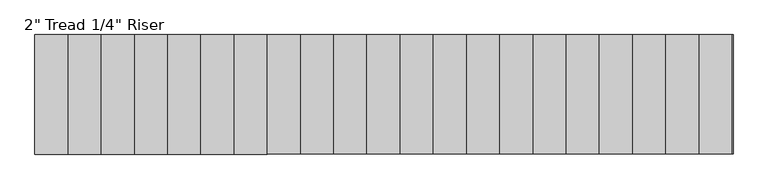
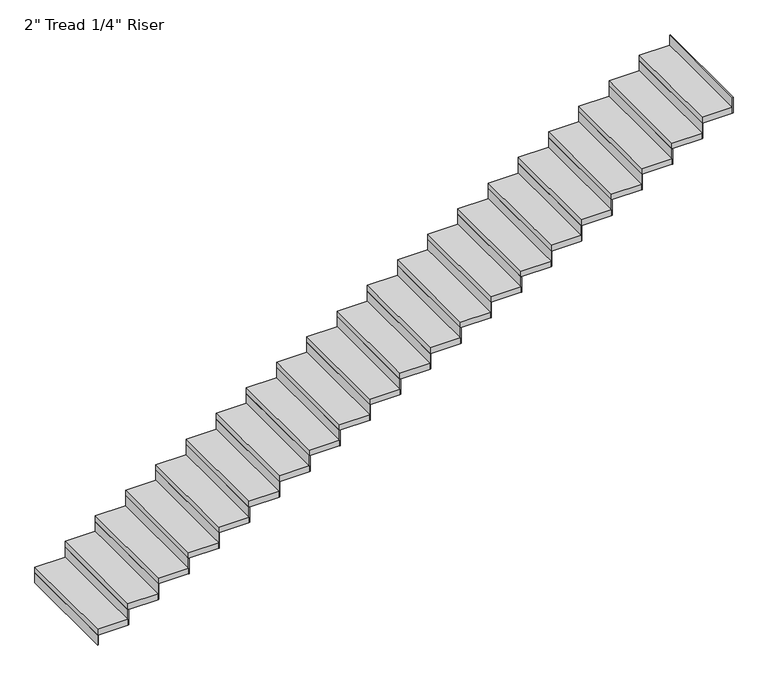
"""IFC4 building model written with IfcOpenShell, lengths in millimetres: stair flight geometry."""

from ifc_helpers import new_model, si_unit, frame, origin, origin_with_axes, place, context, project, spatial, polyline, outline, extrude, source, transform, mapped, element, save


def stair_flight_2ec5e118(model_context):
    return source(origin(), model_context, "Body", "SweptSolid", [
        extrude(outline(polyline([(10185.0667764, -35593.481782), (10178.7167764, -35593.481782), (10178.7167764, -34679.081782), (10185.0667764, -34679.081782), (10185.0667764, -35593.481782)])), origin_with_axes(), (0.0, 0.0, 1.0), 87.7454545),
        extrude(outline(polyline([(10432.7167764, -34679.081782), (10432.7167764, -35593.481782), (10178.7167764, -35593.481782), (10178.7167764, -34679.081782), (10432.7167764, -34679.081782)])), frame((0.0, 0.0, 87.7454545), z_axis=(0.0, 0.0, 1.0), x_axis=(1.0, 0.0, 0.0)), (0.0, 0.0, 1.0), 50.8),
        extrude(outline(polyline([(10439.0667764, -35593.481782), (10432.7167764, -35593.481782), (10432.7167764, -34679.081782), (10439.0667764, -34679.081782), (10439.0667764, -35593.481782)])), frame((0.0, 0.0, 87.7454545), z_axis=(0.0, 0.0, 1.0), x_axis=(1.0, 0.0, 0.0)), (0.0, 0.0, 1.0), 138.5454545),
        extrude(outline(polyline([(10686.7167764, -34679.081782), (10686.7167764, -35593.481782), (10432.7167764, -35593.481782), (10432.7167764, -34679.081782), (10686.7167764, -34679.081782)])), frame((0.0, 0.0, 226.2909091), z_axis=(0.0, 0.0, 1.0), x_axis=(1.0, 0.0, 0.0)), (0.0, 0.0, 1.0), 50.8),
        extrude(outline(polyline([(10693.0667764, -35593.481782), (10686.7167764, -35593.481782), (10686.7167764, -34679.081782), (10693.0667764, -34679.081782), (10693.0667764, -35593.481782)])), frame((0.0, 0.0, 226.2909091), z_axis=(0.0, 0.0, 1.0), x_axis=(1.0, 0.0, 0.0)), (0.0, 0.0, 1.0), 138.5454545),
        extrude(outline(polyline([(10940.7167764, -34679.081782), (10940.7167764, -35593.481782), (10686.7167764, -35593.481782), (10686.7167764, -34679.081782), (10940.7167764, -34679.081782)])), frame((0.0, 0.0, 364.8363636), z_axis=(0.0, 0.0, 1.0), x_axis=(1.0, 0.0, 0.0)), (0.0, 0.0, 1.0), 50.8),
        extrude(outline(polyline([(10947.0667764, -35593.481782), (10940.7167764, -35593.481782), (10940.7167764, -34679.081782), (10947.0667764, -34679.081782), (10947.0667764, -35593.481782)])), frame((0.0, 0.0, 364.8363636), z_axis=(0.0, 0.0, 1.0), x_axis=(1.0, 0.0, 0.0)), (0.0, 0.0, 1.0), 138.5454545),
        extrude(outline(polyline([(11194.7167764, -34679.081782), (11194.7167764, -35593.481782), (10940.7167764, -35593.481782), (10940.7167764, -34679.081782), (11194.7167764, -34679.081782)])), frame((0.0, 0.0, 503.3818182), z_axis=(0.0, 0.0, 1.0), x_axis=(1.0, 0.0, 0.0)), (0.0, 0.0, 1.0), 50.8),
        extrude(outline(polyline([(11201.0667764, -35593.481782), (11194.7167764, -35593.481782), (11194.7167764, -34679.081782), (11201.0667764, -34679.081782), (11201.0667764, -35593.481782)])), frame((0.0, 0.0, 503.3818182), z_axis=(0.0, 0.0, 1.0), x_axis=(1.0, 0.0, 0.0)), (0.0, 0.0, 1.0), 138.5454545),
        extrude(outline(polyline([(11448.7167764, -34679.081782), (11448.7167764, -35593.481782), (11194.7167764, -35593.481782), (11194.7167764, -34679.081782), (11448.7167764, -34679.081782)])), frame((0.0, 0.0, 641.9272727), z_axis=(0.0, 0.0, 1.0), x_axis=(1.0, 0.0, 0.0)), (0.0, 0.0, 1.0), 50.8),
        extrude(outline(polyline([(11455.0667764, -35593.481782), (11448.7167764, -35593.481782), (11448.7167764, -34679.081782), (11455.0667764, -34679.081782), (11455.0667764, -35593.481782)])), frame((0.0, 0.0, 641.9272727), z_axis=(0.0, 0.0, 1.0), x_axis=(1.0, 0.0, 0.0)), (0.0, 0.0, 1.0), 138.5454545),
        extrude(outline(polyline([(11702.7167764, -34679.081782), (11702.7167764, -35593.481782), (11448.7167764, -35593.481782), (11448.7167764, -34679.081782), (11702.7167764, -34679.081782)])), frame((0.0, 0.0, 780.4727273), z_axis=(0.0, 0.0, 1.0), x_axis=(1.0, 0.0, 0.0)), (0.0, 0.0, 1.0), 50.8),
        extrude(outline(polyline([(11709.0667764, -35593.481782), (11702.7167764, -35593.481782), (11702.7167764, -34679.081782), (11709.0667764, -34679.081782), (11709.0667764, -35593.481782)])), frame((0.0, 0.0, 780.4727273), z_axis=(0.0, 0.0, 1.0), x_axis=(1.0, 0.0, 0.0)), (0.0, 0.0, 1.0), 138.5454545),
        extrude(outline(polyline([(11956.7167764, -34679.081782), (11956.7167764, -35593.481782), (11702.7167764, -35593.481782), (11702.7167764, -34679.081782), (11956.7167764, -34679.081782)])), frame((0.0, 0.0, 919.0181818), z_axis=(0.0, 0.0, 1.0), x_axis=(1.0, 0.0, 0.0)), (0.0, 0.0, 1.0), 50.8),
        extrude(outline(polyline([(11963.0667764, -35593.481782), (11956.7167764, -35593.481782), (11956.7167764, -34679.081782), (11963.0667764, -34679.081782), (11963.0667764, -35593.481782)])), frame((0.0, 0.0, 919.0181818), z_axis=(0.0, 0.0, 1.0), x_axis=(1.0, 0.0, 0.0)), (0.0, 0.0, 1.0), 138.5454545),
        extrude(outline(polyline([(12210.7167764, -34679.081782), (12210.7167764, -35593.481782), (11956.7167764, -35593.481782), (11956.7167764, -34679.081782), (12210.7167764, -34679.081782)])), frame((0.0, 0.0, 1057.5636364), z_axis=(0.0, 0.0, 1.0), x_axis=(1.0, 0.0, 0.0)), (0.0, 0.0, 1.0), 50.8),
        extrude(outline(polyline([(12217.0667764, -35593.481782), (12210.7167764, -35593.481782), (12210.7167764, -34679.081782), (12217.0667764, -34679.081782), (12217.0667764, -35593.481782)])), frame((0.0, 0.0, 1057.5636364), z_axis=(0.0, 0.0, 1.0), x_axis=(1.0, 0.0, 0.0)), (0.0, 0.0, 1.0), 138.5454545),
        extrude(outline(polyline([(12464.7167764, -34679.081782), (12464.7167764, -35593.481782), (12210.7167764, -35593.481782), (12210.7167764, -34679.081782), (12464.7167764, -34679.081782)])), frame((0.0, 0.0, 1196.1090909), z_axis=(0.0, 0.0, 1.0), x_axis=(1.0, 0.0, 0.0)), (0.0, 0.0, 1.0), 50.8),
        extrude(outline(polyline([(12471.0667764, -35593.481782), (12464.7167764, -35593.481782), (12464.7167764, -34679.081782), (12471.0667764, -34679.081782), (12471.0667764, -35593.481782)])), frame((0.0, 0.0, 1196.1090909), z_axis=(0.0, 0.0, 1.0), x_axis=(1.0, 0.0, 0.0)), (0.0, 0.0, 1.0), 138.5454545),
        extrude(outline(polyline([(12718.7167764, -34679.081782), (12718.7167764, -35593.481782), (12464.7167764, -35593.481782), (12464.7167764, -34679.081782), (12718.7167764, -34679.081782)])), frame((0.0, 0.0, 1334.6545455), z_axis=(0.0, 0.0, 1.0), x_axis=(1.0, 0.0, 0.0)), (0.0, 0.0, 1.0), 50.8),
        extrude(outline(polyline([(12725.0667764, -35593.481782), (12718.7167764, -35593.481782), (12718.7167764, -34679.081782), (12725.0667764, -34679.081782), (12725.0667764, -35593.481782)])), frame((0.0, 0.0, 1334.6545455), z_axis=(0.0, 0.0, 1.0), x_axis=(1.0, 0.0, 0.0)), (0.0, 0.0, 1.0), 138.5454545),
        extrude(outline(polyline([(12972.7167764, -34679.081782), (12972.7167764, -35593.481782), (12718.7167764, -35593.481782), (12718.7167764, -34679.081782), (12972.7167764, -34679.081782)])), frame((0.0, 0.0, 1473.2), z_axis=(0.0, 0.0, 1.0), x_axis=(1.0, 0.0, 0.0)), (0.0, 0.0, 1.0), 50.8),
        extrude(outline(polyline([(12979.0667764, -35593.481782), (12972.7167764, -35593.481782), (12972.7167764, -34679.081782), (12979.0667764, -34679.081782), (12979.0667764, -35593.481782)])), frame((0.0, 0.0, 1473.2), z_axis=(0.0, 0.0, 1.0), x_axis=(1.0, 0.0, 0.0)), (0.0, 0.0, 1.0), 138.5454545),
        extrude(outline(polyline([(13226.7167764, -34679.081782), (13226.7167764, -35593.481782), (12972.7167764, -35593.481782), (12972.7167764, -34679.081782), (13226.7167764, -34679.081782)])), frame((0.0, 0.0, 1611.7454545), z_axis=(0.0, 0.0, 1.0), x_axis=(1.0, 0.0, 0.0)), (0.0, 0.0, 1.0), 50.8),
        extrude(outline(polyline([(13233.0667764, -35593.481782), (13226.7167764, -35593.481782), (13226.7167764, -34679.081782), (13233.0667764, -34679.081782), (13233.0667764, -35593.481782)])), frame((0.0, 0.0, 1611.7454545), z_axis=(0.0, 0.0, 1.0), x_axis=(1.0, 0.0, 0.0)), (0.0, 0.0, 1.0), 138.5454545),
        extrude(outline(polyline([(13480.7167764, -34679.081782), (13480.7167764, -35593.481782), (13226.7167764, -35593.481782), (13226.7167764, -34679.081782), (13480.7167764, -34679.081782)])), frame((0.0, 0.0, 1750.2909091), z_axis=(0.0, 0.0, 1.0), x_axis=(1.0, 0.0, 0.0)), (0.0, 0.0, 1.0), 50.8),
        extrude(outline(polyline([(13487.0667764, -35593.481782), (13480.7167764, -35593.481782), (13480.7167764, -34679.081782), (13487.0667764, -34679.081782), (13487.0667764, -35593.481782)])), frame((0.0, 0.0, 1750.2909091), z_axis=(0.0, 0.0, 1.0), x_axis=(1.0, 0.0, 0.0)), (0.0, 0.0, 1.0), 138.5454545),
        extrude(outline(polyline([(13734.7167764, -34679.081782), (13734.7167764, -35593.481782), (13480.7167764, -35593.481782), (13480.7167764, -34679.081782), (13734.7167764, -34679.081782)])), frame((0.0, 0.0, 1888.8363636), z_axis=(0.0, 0.0, 1.0), x_axis=(1.0, 0.0, 0.0)), (0.0, 0.0, 1.0), 50.8),
        extrude(outline(polyline([(13741.0667764, -35593.481782), (13734.7167764, -35593.481782), (13734.7167764, -34679.081782), (13741.0667764, -34679.081782), (13741.0667764, -35593.481782)])), frame((0.0, 0.0, 1888.8363636), z_axis=(0.0, 0.0, 1.0), x_axis=(1.0, 0.0, 0.0)), (0.0, 0.0, 1.0), 138.5454545),
        extrude(outline(polyline([(13988.7167764, -34679.081782), (13988.7167764, -35593.481782), (13734.7167764, -35593.481782), (13734.7167764, -34679.081782), (13988.7167764, -34679.081782)])), frame((0.0, 0.0, 2027.3818182), z_axis=(0.0, 0.0, 1.0), x_axis=(1.0, 0.0, 0.0)), (0.0, 0.0, 1.0), 50.8),
        extrude(outline(polyline([(13995.0667764, -35593.481782), (13988.7167764, -35593.481782), (13988.7167764, -34679.081782), (13995.0667764, -34679.081782), (13995.0667764, -35593.481782)])), frame((0.0, 0.0, 2027.3818182), z_axis=(0.0, 0.0, 1.0), x_axis=(1.0, 0.0, 0.0)), (0.0, 0.0, 1.0), 138.5454545),
        extrude(outline(polyline([(14242.7167764, -34679.081782), (14242.7167764, -35593.481782), (13988.7167764, -35593.481782), (13988.7167764, -34679.081782), (14242.7167764, -34679.081782)])), frame((0.0, 0.0, 2165.9272727), z_axis=(0.0, 0.0, 1.0), x_axis=(1.0, 0.0, 0.0)), (0.0, 0.0, 1.0), 50.8),
        extrude(outline(polyline([(14249.0667764, -35593.481782), (14242.7167764, -35593.481782), (14242.7167764, -34679.081782), (14249.0667764, -34679.081782), (14249.0667764, -35593.481782)])), frame((0.0, 0.0, 2165.9272727), z_axis=(0.0, 0.0, 1.0), x_axis=(1.0, 0.0, 0.0)), (0.0, 0.0, 1.0), 138.5454545),
        extrude(outline(polyline([(14496.7167764, -34679.081782), (14496.7167764, -35593.481782), (14242.7167764, -35593.481782), (14242.7167764, -34679.081782), (14496.7167764, -34679.081782)])), frame((0.0, 0.0, 2304.4727273), z_axis=(0.0, 0.0, 1.0), x_axis=(1.0, 0.0, 0.0)), (0.0, 0.0, 1.0), 50.8),
        extrude(outline(polyline([(14503.0667764, -35593.481782), (14496.7167764, -35593.481782), (14496.7167764, -34679.081782), (14503.0667764, -34679.081782), (14503.0667764, -35593.481782)])), frame((0.0, 0.0, 2304.4727273), z_axis=(0.0, 0.0, 1.0), x_axis=(1.0, 0.0, 0.0)), (0.0, 0.0, 1.0), 138.5454545),
        extrude(outline(polyline([(14750.7167764, -34679.081782), (14750.7167764, -35593.481782), (14496.7167764, -35593.481782), (14496.7167764, -34679.081782), (14750.7167764, -34679.081782)])), frame((0.0, 0.0, 2443.0181818), z_axis=(0.0, 0.0, 1.0), x_axis=(1.0, 0.0, 0.0)), (0.0, 0.0, 1.0), 50.8),
        extrude(outline(polyline([(14757.0667764, -35593.481782), (14750.7167764, -35593.481782), (14750.7167764, -34679.081782), (14757.0667764, -34679.081782), (14757.0667764, -35593.481782)])), frame((0.0, 0.0, 2443.0181818), z_axis=(0.0, 0.0, 1.0), x_axis=(1.0, 0.0, 0.0)), (0.0, 0.0, 1.0), 138.5454545),
        extrude(outline(polyline([(15004.7167764, -34679.081782), (15004.7167764, -35593.481782), (14750.7167764, -35593.481782), (14750.7167764, -34679.081782), (15004.7167764, -34679.081782)])), frame((0.0, 0.0, 2581.5636364), z_axis=(0.0, 0.0, 1.0), x_axis=(1.0, 0.0, 0.0)), (0.0, 0.0, 1.0), 50.8),
        extrude(outline(polyline([(15011.0667764, -35593.481782), (15004.7167764, -35593.481782), (15004.7167764, -34679.081782), (15011.0667764, -34679.081782), (15011.0667764, -35593.481782)])), frame((0.0, 0.0, 2581.5636364), z_axis=(0.0, 0.0, 1.0), x_axis=(1.0, 0.0, 0.0)), (0.0, 0.0, 1.0), 138.5454545),
        extrude(outline(polyline([(15258.7167764, -34679.081782), (15258.7167764, -35593.481782), (15004.7167764, -35593.481782), (15004.7167764, -34679.081782), (15258.7167764, -34679.081782)])), frame((0.0, 0.0, 2720.1090909), z_axis=(0.0, 0.0, 1.0), x_axis=(1.0, 0.0, 0.0)), (0.0, 0.0, 1.0), 50.8),
        extrude(outline(polyline([(15265.0667764, -35593.481782), (15258.7167764, -35593.481782), (15258.7167764, -34679.081782), (15265.0667764, -34679.081782), (15265.0667764, -35593.481782)])), frame((0.0, 0.0, 2720.1090909), z_axis=(0.0, 0.0, 1.0), x_axis=(1.0, 0.0, 0.0)), (0.0, 0.0, 1.0), 138.5454545),
        extrude(outline(polyline([(15519.0667764, -35593.481782), (15512.7167764, -35593.481782), (15512.7167764, -34679.081782), (15519.0667764, -34679.081782), (15519.0667764, -35593.481782)])), frame((0.0, 0.0, 2858.6545455), z_axis=(0.0, 0.0, 1.0), x_axis=(1.0, 0.0, 0.0)), (0.0, 0.0, 1.0), 138.5454545),
        extrude(outline(polyline([(15512.7167764, -34679.081782), (15512.7167764, -35593.481782), (15258.7167764, -35593.481782), (15258.7167764, -34679.081782), (15512.7167764, -34679.081782)])), frame((0.0, 0.0, 2858.6545455), z_axis=(0.0, 0.0, 1.0), x_axis=(1.0, 0.0, 0.0)), (0.0, 0.0, 1.0), 50.8),
    ])


if __name__ == "__main__":
    model = new_model("IFC4")
    model_context = context("Model", 3, world=origin())
    ifc_project = project(units=[si_unit("LENGTHUNIT", "METRE", prefix="MILLI")], contexts=[model_context])
    site = spatial("IfcSite", under=ifc_project)
    building = spatial("IfcBuilding", under=site)
    placement = place(None, origin())
    stair_flight_shape = stair_flight_2ec5e118(model_context)
    element("IfcStairFlight", 1, ObjectType="2\" Tread 1/4\" Riser", at=placement, inside=building, context=model_context, shape_type="MappedRepresentation", body=[
        mapped(stair_flight_shape, transform((0.0, 0.0, 0.0), x_axis=(1.0, 0.0, 0.0), y_axis=(0.0, 1.0, 0.0), z_axis=(0.0, 0.0, 1.0))),
    ])
    save(model, "model.ifc")
